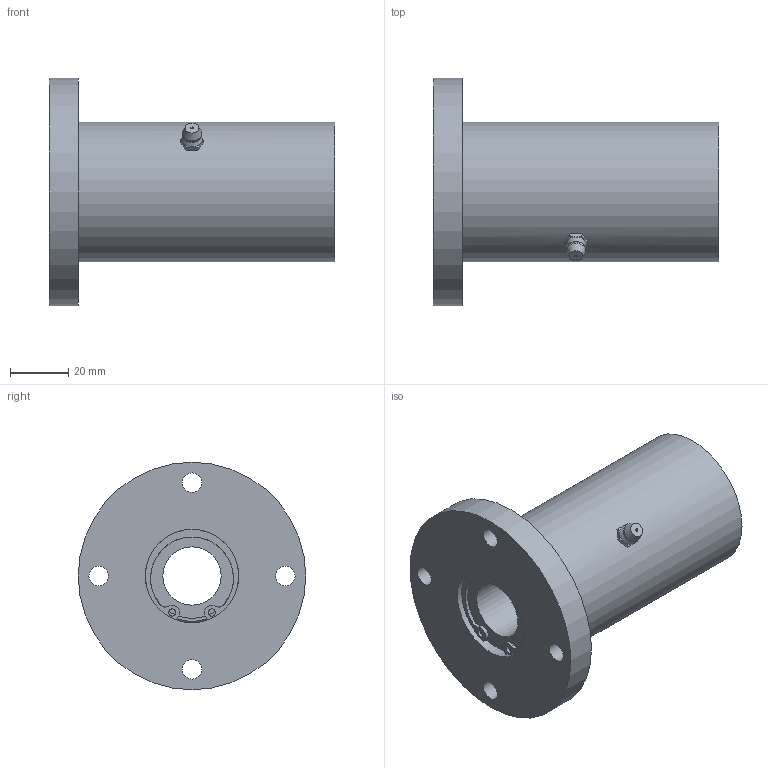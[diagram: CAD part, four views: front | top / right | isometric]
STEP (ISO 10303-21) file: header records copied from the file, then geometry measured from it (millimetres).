
FILE_DESCRIPTION((''),'2;1');
FILE_NAME('D:\製品 (図面)\カタログ用3D\リニアベアリング関連(改)\STEP形式\LFW-OH\LFW20-OH.stp','2010-01-22T16:16:48',('Tsuchiya'),(''),'Autodesk Inventor 10','Autodesk Inventor 10','');
FILE_SCHEMA(('AUTOMOTIVE_DESIGN { 1 0 10303 214 1 1 1 1 }'));
Length unit declared in the file: millimetre
Products named in the file (1): LFW20-OH
Bounding box: 98 x 78 x 78 mm (x, y, z)
Volume: 171573.7 mm3; surface area: 36217.2 mm2
Topology: 1 solids, 7 shells, 105 faces, 244 edges, 152 vertices
Faces by surface type: bspline 36, plane 31, cylinder 27, cone 7, sphere 2, torus 2
Full cylindrical faces by diameter (mm): 2.5 x2, 6.647 x4, 20 x2, 29 x2, 30.3 x2, 32 x8, 48 x1, 78 x1
Entity records: 3073 total; most frequent: CARTESIAN_POINT 926, DIRECTION 448, ORIENTED_EDGE 372, AXIS2_PLACEMENT_3D 204, EDGE_CURVE 186, EDGE_LOOP 178, VERTEX_POINT 134, CIRCLE 130
